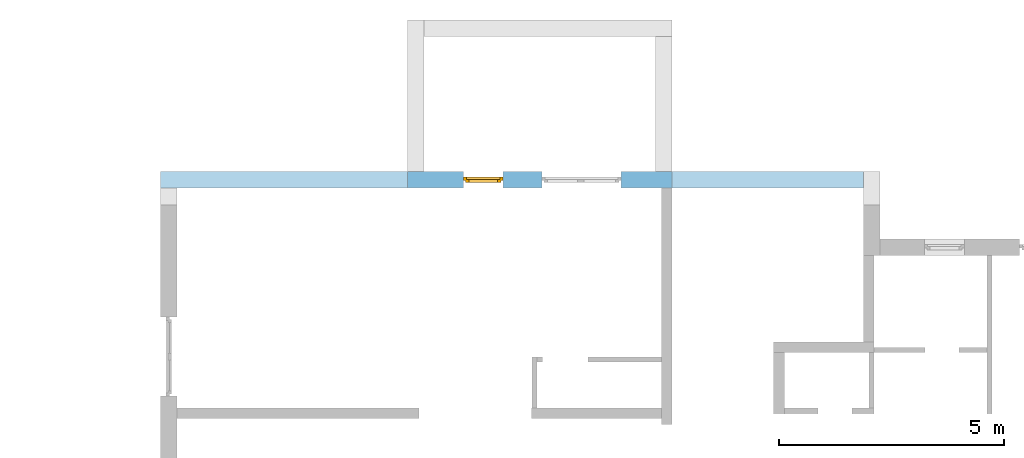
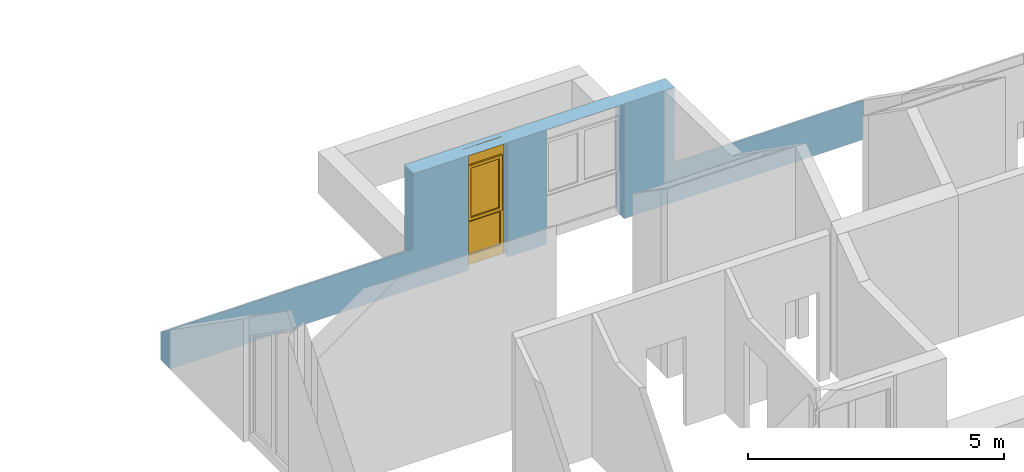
# One storey, part 14 of 23: 1 window, 2 openings, plus 1 element that does not belong to this part.
"""IFC2X3 building model written with IfcOpenShell, lengths in millimetres."""

from ifc_helpers import new_model, entity, si_unit, converted_unit, frame, frame_2d, origin, origin_with_axes, place, context, subcontext, project, spatial, polyline, rectangle, extrude, clip, bounded_halfspace, faceted_brep, material, layer, layer_set, layer_usage, type_object, element, fill, save


model = new_model("IFC2X3")

# Units and contexts
model_context = context("Model", 3, precision=1e-05, world=origin())
body_context = subcontext(model_context, "Body", "Model", "MODEL_VIEW")
ifc_project = project(units=[si_unit("LENGTHUNIT", "METRE", prefix="MILLI"), converted_unit("PLANEANGLEUNIT", "DEGREE", entity("IfcPlaneAngleMeasure", 0.0174532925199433), si_unit("PLANEANGLEUNIT", "RADIAN"), dimensions=[0, 0, 0, 0, 0, 0, 0]), si_unit("AREAUNIT", "SQUARE_METRE"), si_unit("VOLUMEUNIT", "CUBIC_METRE")], contexts=[model_context])

# Building, storey
building_placement = place(None, origin())
building = spatial("IfcBuilding", under=ifc_project, at=building_placement, Name="Gebäude", CompositionType="ELEMENT")
storey_placement = place(building_placement, frame((0.0, 0.0, 5580.0), z_axis=(0.0, 0.0, 1.0), x_axis=(1.0, 0.0, 0.0)))
storey = spatial("IfcBuildingStorey", under=building, at=storey_placement, Name="DG.- Grundriss", CompositionType="ELEMENT", Elevation=5580.0)

# Wall, openings, window
ifc_material_1 = material(Name="Poroton")
ifc_layer = layer(ifc_material_1, 365.0000000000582)
ifc_layer_set = layer_set([ifc_layer])
ifc_layer_usage = layer_usage(ifc_layer_set, "AXIS2", "POSITIVE", 0.0)
wall_placement = place(storey_placement, frame((164002.7928067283, 136274.8877324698, 0.0), z_axis=(0.0, 0.0, 1.0), x_axis=(-1.0, 0.0, 0.0)))
wall = element("IfcWallStandardCase", 1, at=wall_placement, inside=storey, material=ifc_layer_usage, Name="<Unnamed Element>", context=body_context, shape_type="Clipping", body=[
    clip(clip(clip(extrude(rectangle(XDim=15645.00000000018, YDim=365.0000000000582, at=frame_2d((7822.500000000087, 182.5000000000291), x_axis=(1.0, 0.0))), origin_with_axes(), (0.0, 0.0, 1.0), 2741.371098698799), bounded_halfspace(frame((10145.0000000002, 365.0000000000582, 935.5757514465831), z_axis=(6.652246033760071e-17, 0.5735764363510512, -0.8191520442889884), x_axis=(0.0, -0.819152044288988, -0.5735764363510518)), True, origin(), polyline([(10145.0000000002, 365.0000000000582), (10145.0000000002, 0.0), (15645.00000000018, 0.0), (15645.00000000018, 365.0000000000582), (10145.0000000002, 365.0000000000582)]))), bounded_halfspace(frame((0.0, 365.0000000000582, 935.5757514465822), z_axis=(8.588580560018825e-17, 0.5735764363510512, -0.8191520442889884), x_axis=(0.0, -0.819152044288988, -0.5735764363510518)), True, origin(), polyline([(0.0, 365.0000000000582), (0.0, 0.0), (4260.0, 0.0), (4260.0, 365.0000000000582), (0.0, 365.0000000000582)]))), bounded_halfspace(frame((4260.0, 365.0000000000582, 2741.371098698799), z_axis=(0.0, 0.01745240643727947, -0.9998476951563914), x_axis=(0.0, -0.9998476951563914, -0.01745240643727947)), True, origin(), polyline([(4260.0, 365.0000000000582), (4260.0, 0.0), (10145.0000000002, 0.0), (10145.0000000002, 365.0000000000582), (4260.0, 365.0000000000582)]))),
])
opening_1_placement = place(wall_placement, frame((8020.000000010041, 2.91038304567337e-11, 0.0), z_axis=(0.0, 1.0, 0.0), x_axis=(0.0, 0.0, 1.0)))
opening_1 = element("IfcOpeningElement", 2, at=opening_1_placement, cuts=wall, Name="Fensteröffnung", ObjectType="Opening", context=body_context, shape_type="SweptSolid", body=[
    extrude(rectangle(XDim=2735.0, YDim=885.0, at=frame_2d((1367.5, 442.5), x_axis=(1.0, 0.0))), origin_with_axes(), (0.0, 0.0, 1.0), 365.0000000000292),
])
opening_2_placement = place(wall_placement, frame((5395.000000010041, 5.820766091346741e-11, 0.0), z_axis=(0.0, 1.0, 0.0), x_axis=(0.0, 0.0, 1.0)))
element("IfcOpeningElement", 3, at=opening_2_placement, cuts=wall, Name="Fensteröffnung", ObjectType="Opening", context=body_context, shape_type="SweptSolid", body=[
    extrude(rectangle(XDim=2735.0, YDim=1760.0, at=frame_2d((1367.5, 880.0), x_axis=(1.0, 0.0))), origin_with_axes(), (0.0, 0.0, 1.0), 365.0),
])
ifc_material_2 = material()
window_style = type_object("IfcWindowStyle", Name="Fenster", ConstructionType="NOTDEFINED", OperationType="USERDEFINED", ParameterTakesPrecedence=False, Sizeable=False)
window_placement = place(opening_1_placement, frame((0.0, 0.0, 0.0), z_axis=(1.0, 0.0, 0.0), x_axis=(0.0, 1.0, 0.0)))
window = element("IfcWindow", 4, at=window_placement, inside=storey, type_object=window_style, material=ifc_material_2, Name="Fenster", OverallHeight=2741.371098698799, OverallWidth=885.0, context=body_context, shape_type="Brep", body=[
    faceted_brep([(-1.0011707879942e-08, 200.0000000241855, 2737.094607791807), (-1.0011707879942e-08, 200.0000000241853, -2.449293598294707e-15), (69.9999999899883, 200.0000000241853, -2.449293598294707e-15), (69.9999999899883, 200.0000000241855, 2737.094607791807), (-1.001171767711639e-08, 120.0000000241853, 2.449293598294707e-15), (-1.001171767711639e-08, 120.0000000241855, 2737.094607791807), (69.99999998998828, 120.0000000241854, 2737.094607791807), (69.99999998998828, 120.0000000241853, 2.449293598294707e-15), (-1.0011707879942e-08, 200.0000000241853, -2.449293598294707e-15), (-1.0011707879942e-08, 200.0000000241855, 2737.094607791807), (-1.001171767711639e-08, 120.0000000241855, 2737.094607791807), (-1.001171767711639e-08, 120.0000000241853, 2.449293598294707e-15), (69.9999999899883, 200.0000000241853, -2.449293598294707e-15), (-1.0011707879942e-08, 200.0000000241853, -2.449293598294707e-15), (-1.001171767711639e-08, 120.0000000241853, 2.449293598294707e-15), (69.99999998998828, 120.0000000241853, 2.449293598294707e-15), (69.9999999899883, 200.0000000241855, 2737.094607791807), (69.9999999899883, 200.0000000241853, -2.449293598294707e-15), (69.99999998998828, 120.0000000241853, 2.449293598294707e-15), (69.99999998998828, 120.0000000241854, 2737.094607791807), (-1.0011707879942e-08, 200.0000000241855, 2737.094607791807), (69.9999999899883, 200.0000000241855, 2737.094607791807), (69.99999998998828, 120.0000000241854, 2737.094607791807), (-1.001171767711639e-08, 120.0000000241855, 2737.094607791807)], [[[0, 1, 2, 3]], [[4, 5, 6, 7]], [[8, 9, 10, 11]], [[12, 13, 14, 15]], [[16, 17, 18, 19]], [[20, 21, 22, 23]]], orient=[[False], [False], [False], [False], [False], [False]]),
    faceted_brep([(815.0000000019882, 200.0000000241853, 2737.094607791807), (815.0000000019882, 200.0000000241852, -2.449293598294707e-15), (885.0000000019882, 200.0000000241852, -2.449293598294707e-15), (885.0000000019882, 200.0000000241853, 2737.094607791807), (815.0000000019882, 120.0000000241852, 2.449293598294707e-15), (815.0000000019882, 120.0000000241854, 2737.094607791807), (885.0000000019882, 120.0000000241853, 2737.094607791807), (885.0000000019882, 120.0000000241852, 2.449293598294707e-15), (815.0000000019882, 200.0000000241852, -2.449293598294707e-15), (815.0000000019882, 200.0000000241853, 2737.094607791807), (815.0000000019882, 120.0000000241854, 2737.094607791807), (815.0000000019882, 120.0000000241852, 2.449293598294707e-15), (885.0000000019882, 200.0000000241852, -2.449293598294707e-15), (815.0000000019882, 200.0000000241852, -2.449293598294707e-15), (815.0000000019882, 120.0000000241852, 2.449293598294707e-15), (885.0000000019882, 120.0000000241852, 2.449293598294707e-15), (885.0000000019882, 200.0000000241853, 2737.094607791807), (885.0000000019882, 200.0000000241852, -2.449293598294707e-15), (885.0000000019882, 120.0000000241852, 2.449293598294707e-15), (885.0000000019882, 120.0000000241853, 2737.094607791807), (815.0000000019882, 200.0000000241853, 2737.094607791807), (885.0000000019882, 200.0000000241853, 2737.094607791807), (885.0000000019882, 120.0000000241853, 2737.094607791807), (815.0000000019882, 120.0000000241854, 2737.094607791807)], [[[0, 1, 2, 3]], [[4, 5, 6, 7]], [[8, 9, 10, 11]], [[12, 13, 14, 15]], [[16, 17, 18, 19]], [[20, 21, 22, 23]]], orient=[[False], [False], [False], [False], [False], [False]]),
    faceted_brep([(69.9999999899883, 200.0000000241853, 220.0), (69.9999999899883, 200.0000000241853, -2.449293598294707e-15), (815.0000000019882, 200.0000000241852, -2.449293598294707e-15), (815.0000000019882, 200.0000000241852, 220.0), (69.99999998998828, 120.0000000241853, 2.449293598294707e-15), (69.99999998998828, 120.0000000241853, 220.0), (815.0000000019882, 120.0000000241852, 220.0), (815.0000000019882, 120.0000000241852, 2.449293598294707e-15), (69.9999999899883, 200.0000000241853, -2.449293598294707e-15), (69.9999999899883, 200.0000000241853, 220.0), (69.99999998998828, 120.0000000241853, 220.0), (69.99999998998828, 120.0000000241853, 2.449293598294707e-15), (815.0000000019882, 200.0000000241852, -2.449293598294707e-15), (69.9999999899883, 200.0000000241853, -2.449293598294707e-15), (69.99999998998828, 120.0000000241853, 2.449293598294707e-15), (815.0000000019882, 120.0000000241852, 2.449293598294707e-15), (815.0000000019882, 200.0000000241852, 220.0), (815.0000000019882, 200.0000000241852, -2.449293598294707e-15), (815.0000000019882, 120.0000000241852, 2.449293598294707e-15), (815.0000000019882, 120.0000000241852, 220.0), (69.9999999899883, 200.0000000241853, 220.0), (815.0000000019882, 200.0000000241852, 220.0), (815.0000000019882, 120.0000000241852, 220.0), (69.99999998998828, 120.0000000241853, 220.0)], [[[0, 1, 2, 3]], [[4, 5, 6, 7]], [[8, 9, 10, 11]], [[12, 13, 14, 15]], [[16, 17, 18, 19]], [[20, 21, 22, 23]]], orient=[[False], [False], [False], [False], [False], [False]]),
    faceted_brep([(69.9999999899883, 200.0000000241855, 2737.094607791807), (69.9999999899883, 200.0000000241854, 2367.094607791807), (815.0000000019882, 200.0000000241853, 2367.094607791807), (815.0000000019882, 200.0000000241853, 2737.094607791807), (69.99999998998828, 120.0000000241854, 2367.094607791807), (69.99999998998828, 120.0000000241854, 2737.094607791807), (815.0000000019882, 120.0000000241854, 2737.094607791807), (815.0000000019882, 120.0000000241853, 2367.094607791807), (69.9999999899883, 200.0000000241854, 2367.094607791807), (69.9999999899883, 200.0000000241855, 2737.094607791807), (69.99999998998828, 120.0000000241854, 2737.094607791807), (69.99999998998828, 120.0000000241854, 2367.094607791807), (815.0000000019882, 200.0000000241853, 2367.094607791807), (69.9999999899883, 200.0000000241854, 2367.094607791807), (69.99999998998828, 120.0000000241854, 2367.094607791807), (815.0000000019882, 120.0000000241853, 2367.094607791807), (815.0000000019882, 200.0000000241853, 2737.094607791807), (815.0000000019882, 200.0000000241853, 2367.094607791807), (815.0000000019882, 120.0000000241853, 2367.094607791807), (815.0000000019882, 120.0000000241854, 2737.094607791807), (69.9999999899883, 200.0000000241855, 2737.094607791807), (815.0000000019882, 200.0000000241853, 2737.094607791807), (815.0000000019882, 120.0000000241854, 2737.094607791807), (69.99999998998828, 120.0000000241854, 2737.094607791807)], [[[0, 1, 2, 3]], [[4, 5, 6, 7]], [[8, 9, 10, 11]], [[12, 13, 14, 15]], [[16, 17, 18, 19]], [[20, 21, 22, 23]]], orient=[[False], [False], [False], [False], [False], [False]]),
    faceted_brep([(69.9999999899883, 200.0000000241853, 1090.0), (69.9999999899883, 200.0000000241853, 1020.0), (815.0000000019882, 200.0000000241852, 1020.0), (815.0000000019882, 200.0000000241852, 1090.0), (69.99999998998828, 120.0000000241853, 1020.0), (69.99999998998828, 120.0000000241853, 1090.0), (815.0000000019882, 120.0000000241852, 1090.0), (815.0000000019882, 120.0000000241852, 1020.0), (69.9999999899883, 200.0000000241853, 1020.0), (69.9999999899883, 200.0000000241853, 1090.0), (69.99999998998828, 120.0000000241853, 1090.0), (69.99999998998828, 120.0000000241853, 1020.0), (815.0000000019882, 200.0000000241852, 1020.0), (69.9999999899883, 200.0000000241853, 1020.0), (69.99999998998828, 120.0000000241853, 1020.0), (815.0000000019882, 120.0000000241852, 1020.0), (815.0000000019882, 200.0000000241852, 1090.0), (815.0000000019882, 200.0000000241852, 1020.0), (815.0000000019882, 120.0000000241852, 1020.0), (815.0000000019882, 120.0000000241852, 1090.0), (69.9999999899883, 200.0000000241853, 1090.0), (815.0000000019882, 200.0000000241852, 1090.0), (815.0000000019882, 120.0000000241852, 1090.0), (69.99999998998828, 120.0000000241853, 1090.0)], [[[0, 1, 2, 3]], [[4, 5, 6, 7]], [[8, 9, 10, 11]], [[12, 13, 14, 15]], [[16, 17, 18, 19]], [[20, 21, 22, 23]]], orient=[[False], [False], [False], [False], [False], [False]]),
    faceted_brep([(69.99999998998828, 160.0000000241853, 220.0), (815.0000000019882, 160.0000000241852, 220.0), (815.0000000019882, 160.0000000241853, 1020.0), (69.99999998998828, 160.0000000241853, 1020.0), (69.99999998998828, 159.0000000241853, 220.0), (69.99999998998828, 159.0000000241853, 1020.0), (815.0000000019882, 159.0000000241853, 1020.0), (815.0000000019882, 159.0000000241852, 220.0), (69.99999998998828, 160.0000000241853, 220.0), (69.99999998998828, 159.0000000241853, 220.0), (815.0000000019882, 159.0000000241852, 220.0), (815.0000000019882, 160.0000000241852, 220.0), (815.0000000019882, 160.0000000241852, 220.0), (815.0000000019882, 159.0000000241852, 220.0), (815.0000000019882, 159.0000000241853, 1020.0), (815.0000000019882, 160.0000000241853, 1020.0), (815.0000000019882, 160.0000000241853, 1020.0), (815.0000000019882, 159.0000000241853, 1020.0), (69.99999998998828, 159.0000000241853, 1020.0), (69.99999998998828, 160.0000000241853, 1020.0), (69.99999998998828, 160.0000000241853, 1020.0), (69.99999998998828, 159.0000000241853, 1020.0), (69.99999998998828, 159.0000000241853, 220.0), (69.99999998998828, 160.0000000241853, 220.0)], [[[0, 1, 2, 3]], [[4, 5, 6, 7]], [[8, 9, 10, 11]], [[12, 13, 14, 15]], [[16, 17, 18, 19]], [[20, 21, 22, 23]]], orient=[[False], [False], [False], [False], [False], [False]]),
    faceted_brep([(49.9999999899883, 240.0000000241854, 2387.094607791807), (49.9999999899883, 240.0000000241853, 1070.0), (119.9999999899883, 240.0000000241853, 1070.0), (119.9999999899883, 240.0000000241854, 2387.094607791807), (49.99999998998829, 170.0000000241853, 1070.0), (49.99999998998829, 170.0000000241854, 2387.094607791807), (119.9999999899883, 170.0000000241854, 2387.094607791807), (119.9999999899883, 170.0000000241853, 1070.0), (49.9999999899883, 240.0000000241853, 1070.0), (49.9999999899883, 240.0000000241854, 2387.094607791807), (49.99999998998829, 170.0000000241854, 2387.094607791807), (49.99999998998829, 170.0000000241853, 1070.0), (119.9999999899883, 240.0000000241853, 1070.0), (49.9999999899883, 240.0000000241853, 1070.0), (49.99999998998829, 170.0000000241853, 1070.0), (119.9999999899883, 170.0000000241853, 1070.0), (119.9999999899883, 240.0000000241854, 2387.094607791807), (119.9999999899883, 240.0000000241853, 1070.0), (119.9999999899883, 170.0000000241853, 1070.0), (119.9999999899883, 170.0000000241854, 2387.094607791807), (49.9999999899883, 240.0000000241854, 2387.094607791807), (119.9999999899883, 240.0000000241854, 2387.094607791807), (119.9999999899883, 170.0000000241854, 2387.094607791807), (49.99999998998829, 170.0000000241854, 2387.094607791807)], [[[0, 1, 2, 3]], [[4, 5, 6, 7]], [[8, 9, 10, 11]], [[12, 13, 14, 15]], [[16, 17, 18, 19]], [[20, 21, 22, 23]]], orient=[[False], [False], [False], [False], [False], [False]]),
    faceted_brep([(765.000000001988, 240.0000000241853, 2387.094607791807), (765.000000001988, 240.0000000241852, 1070.0), (835.000000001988, 240.0000000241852, 1070.0), (835.000000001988, 240.0000000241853, 2387.094607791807), (765.000000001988, 170.0000000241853, 1070.0), (765.000000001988, 170.0000000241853, 2387.094607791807), (835.000000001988, 170.0000000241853, 2387.094607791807), (835.000000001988, 170.0000000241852, 1070.0), (765.000000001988, 240.0000000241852, 1070.0), (765.000000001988, 240.0000000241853, 2387.094607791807), (765.000000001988, 170.0000000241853, 2387.094607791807), (765.000000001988, 170.0000000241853, 1070.0), (835.000000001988, 240.0000000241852, 1070.0), (765.000000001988, 240.0000000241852, 1070.0), (765.000000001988, 170.0000000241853, 1070.0), (835.000000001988, 170.0000000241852, 1070.0), (835.000000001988, 240.0000000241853, 2387.094607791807), (835.000000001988, 240.0000000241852, 1070.0), (835.000000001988, 170.0000000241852, 1070.0), (835.000000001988, 170.0000000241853, 2387.094607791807), (765.000000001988, 240.0000000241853, 2387.094607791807), (835.000000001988, 240.0000000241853, 2387.094607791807), (835.000000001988, 170.0000000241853, 2387.094607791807), (765.000000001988, 170.0000000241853, 2387.094607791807)], [[[0, 1, 2, 3]], [[4, 5, 6, 7]], [[8, 9, 10, 11]], [[12, 13, 14, 15]], [[16, 17, 18, 19]], [[20, 21, 22, 23]]], orient=[[False], [False], [False], [False], [False], [False]]),
    faceted_brep([(119.9999999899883, 240.0000000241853, 1140.0), (119.9999999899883, 240.0000000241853, 1070.0), (765.000000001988, 240.0000000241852, 1070.0), (765.000000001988, 240.0000000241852, 1140.0), (119.9999999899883, 170.0000000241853, 1070.0), (119.9999999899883, 170.0000000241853, 1140.0), (765.000000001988, 170.0000000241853, 1140.0), (765.000000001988, 170.0000000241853, 1070.0), (119.9999999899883, 240.0000000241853, 1070.0), (119.9999999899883, 240.0000000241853, 1140.0), (119.9999999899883, 170.0000000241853, 1140.0), (119.9999999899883, 170.0000000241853, 1070.0), (765.000000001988, 240.0000000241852, 1070.0), (119.9999999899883, 240.0000000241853, 1070.0), (119.9999999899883, 170.0000000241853, 1070.0), (765.000000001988, 170.0000000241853, 1070.0), (765.000000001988, 240.0000000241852, 1140.0), (765.000000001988, 240.0000000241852, 1070.0), (765.000000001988, 170.0000000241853, 1070.0), (765.000000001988, 170.0000000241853, 1140.0), (119.9999999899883, 240.0000000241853, 1140.0), (765.000000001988, 240.0000000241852, 1140.0), (765.000000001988, 170.0000000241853, 1140.0), (119.9999999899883, 170.0000000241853, 1140.0)], [[[0, 1, 2, 3]], [[4, 5, 6, 7]], [[8, 9, 10, 11]], [[12, 13, 14, 15]], [[16, 17, 18, 19]], [[20, 21, 22, 23]]], orient=[[False], [False], [False], [False], [False], [False]]),
    faceted_brep([(119.9999999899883, 240.0000000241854, 2387.094607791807), (119.9999999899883, 240.0000000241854, 2317.094607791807), (765.000000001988, 240.0000000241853, 2317.094607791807), (765.000000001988, 240.0000000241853, 2387.094607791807), (119.9999999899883, 170.0000000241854, 2317.094607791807), (119.9999999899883, 170.0000000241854, 2387.094607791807), (765.000000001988, 170.0000000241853, 2387.094607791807), (765.000000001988, 170.0000000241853, 2317.094607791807), (119.9999999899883, 240.0000000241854, 2317.094607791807), (119.9999999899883, 240.0000000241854, 2387.094607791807), (119.9999999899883, 170.0000000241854, 2387.094607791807), (119.9999999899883, 170.0000000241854, 2317.094607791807), (765.000000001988, 240.0000000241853, 2317.094607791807), (119.9999999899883, 240.0000000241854, 2317.094607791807), (119.9999999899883, 170.0000000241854, 2317.094607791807), (765.000000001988, 170.0000000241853, 2317.094607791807), (765.000000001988, 240.0000000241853, 2387.094607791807), (765.000000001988, 240.0000000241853, 2317.094607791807), (765.000000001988, 170.0000000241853, 2317.094607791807), (765.000000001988, 170.0000000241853, 2387.094607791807), (119.9999999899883, 240.0000000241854, 2387.094607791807), (765.000000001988, 240.0000000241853, 2387.094607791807), (765.000000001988, 170.0000000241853, 2387.094607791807), (119.9999999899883, 170.0000000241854, 2387.094607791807)], [[[0, 1, 2, 3]], [[4, 5, 6, 7]], [[8, 9, 10, 11]], [[12, 13, 14, 15]], [[16, 17, 18, 19]], [[20, 21, 22, 23]]], orient=[[False], [False], [False], [False], [False], [False]]),
    faceted_brep([(119.9999999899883, 205.0000000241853, 1140.0), (765.000000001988, 205.0000000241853, 1140.0), (765.000000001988, 205.0000000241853, 2317.094607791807), (119.9999999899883, 205.0000000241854, 2317.094607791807), (119.9999999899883, 204.0000000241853, 1140.0), (119.9999999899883, 204.0000000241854, 2317.094607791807), (765.000000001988, 204.0000000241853, 2317.094607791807), (765.000000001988, 204.0000000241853, 1140.0), (119.9999999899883, 205.0000000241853, 1140.0), (119.9999999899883, 204.0000000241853, 1140.0), (765.000000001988, 204.0000000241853, 1140.0), (765.000000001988, 205.0000000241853, 1140.0), (765.000000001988, 205.0000000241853, 1140.0), (765.000000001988, 204.0000000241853, 1140.0), (765.000000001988, 204.0000000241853, 2317.094607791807), (765.000000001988, 205.0000000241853, 2317.094607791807), (765.000000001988, 205.0000000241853, 2317.094607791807), (765.000000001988, 204.0000000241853, 2317.094607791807), (119.9999999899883, 204.0000000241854, 2317.094607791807), (119.9999999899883, 205.0000000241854, 2317.094607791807), (119.9999999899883, 205.0000000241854, 2317.094607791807), (119.9999999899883, 204.0000000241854, 2317.094607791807), (119.9999999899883, 204.0000000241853, 1140.0), (119.9999999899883, 205.0000000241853, 1140.0)], [[[0, 1, 2, 3]], [[4, 5, 6, 7]], [[8, 9, 10, 11]], [[12, 13, 14, 15]], [[16, 17, 18, 19]], [[20, 21, 22, 23]]], orient=[[False], [False], [False], [False], [False], [False]]),
])
fill(opening_1, window)

save(model, "model.ifc")
